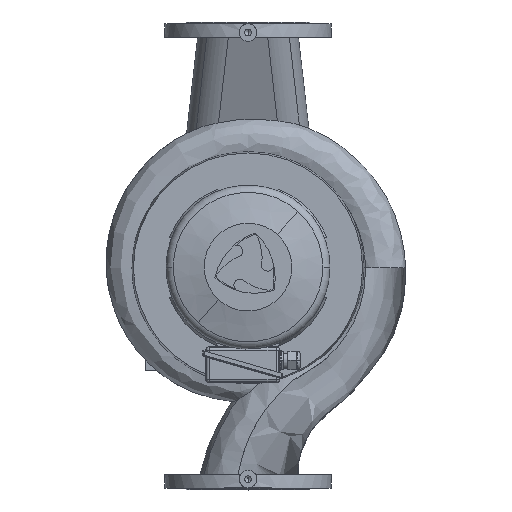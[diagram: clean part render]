
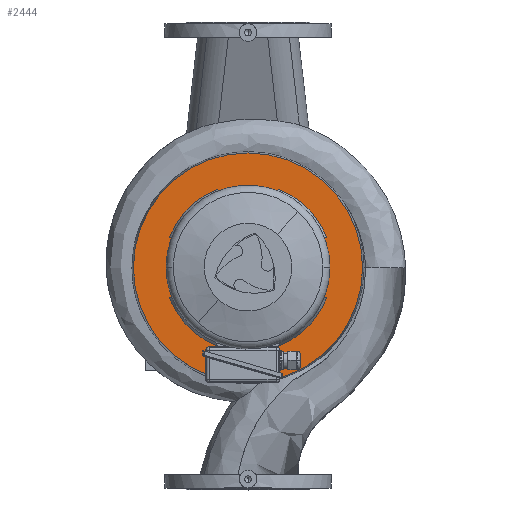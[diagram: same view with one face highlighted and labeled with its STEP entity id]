
A CAD part, top view. The second image highlights one B-rep face of the part: STEP entity #2444.
In plain terms, the highlighted planar face has unit normal (0, 0, 1) as drawn and (1, 0, 0) by its records, which use the part's own axes.
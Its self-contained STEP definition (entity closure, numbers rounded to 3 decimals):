
#2444=ADVANCED_FACE('',(#6164,#6165),#6166,.T.);
#2468=EDGE_CURVE('',#6205,#6206,#6207,.T.);
#2492=EDGE_CURVE('',#6249,#6250,#6251,.T.);
#2500=EDGE_CURVE('',#6259,#6262,#6263,.T.);
#2508=EDGE_CURVE('',#6271,#6274,#6275,.T.);
#2514=EDGE_CURVE('',#6278,#6250,#6283,.T.);
#2516=EDGE_CURVE('',#6285,#6262,#6286,.T.);
#2524=EDGE_CURVE('',#6297,#6293,#6298,.T.);
#2532=EDGE_CURVE('',#6308,#6304,#6309,.T.);
#2540=EDGE_CURVE('',#6315,#6318,#6319,.T.);
#2550=EDGE_CURVE('',#6329,#6259,#6332,.T.);
#2556=EDGE_CURVE('',#6337,#6271,#6340,.T.);
#2564=EDGE_CURVE('',#6348,#6343,#6351,.T.);
#2566=EDGE_CURVE('',#6274,#6293,#6353,.T.);
#2570=EDGE_CURVE('',#6343,#6304,#6357,.T.);
#2574=EDGE_CURVE('',#6318,#6249,#6361,.T.);
#2578=EDGE_CURVE('',#6285,#6337,#6365,.T.);
#2582=EDGE_CURVE('',#6297,#6348,#6369,.T.);
#2584=EDGE_CURVE('',#6278,#6329,#6371,.T.);
#2588=EDGE_CURVE('',#6206,#6205,#6375,.T.);
#2590=EDGE_CURVE('',#6308,#6315,#6377,.T.);
#6164=FACE_OUTER_BOUND('',#12509,.T.);
#6165=FACE_BOUND('',#12510,.T.);
#6166=PLANE('',#12511);
#6205=VERTEX_POINT('',#12552);
#6206=VERTEX_POINT('',#12553);
#6207=CIRCLE('',#12554,196.0);
#6249=VERTEX_POINT('',#12608);
#6250=VERTEX_POINT('',#12609);
#6251=CIRCLE('',#12610,132.799);
#6259=VERTEX_POINT('',#12630);
#6262=VERTEX_POINT('',#12643);
#6263=CIRCLE('',#12644,132.799);
#6271=VERTEX_POINT('',#12664);
#6274=VERTEX_POINT('',#12677);
#6275=CIRCLE('',#12678,132.799);
#6278=VERTEX_POINT('',#12682);
#6283=LINE('',#12699,#12700);
#6285=VERTEX_POINT('',#12703);
#6286=LINE('',#12704,#12705);
#6293=VERTEX_POINT('',#12725);
#6297=VERTEX_POINT('',#12739);
#6298=LINE('',#12740,#12741);
#6304=VERTEX_POINT('',#12760);
#6308=VERTEX_POINT('',#12774);
#6309=LINE('',#12775,#12776);
#6315=VERTEX_POINT('',#12795);
#6318=VERTEX_POINT('',#12808);
#6319=LINE('',#12809,#12810);
#6329=VERTEX_POINT('',#12835);
#6332=LINE('',#12848,#12849);
#6337=VERTEX_POINT('',#12857);
#6340=LINE('',#12870,#12871);
#6343=VERTEX_POINT('',#12875);
#6348=VERTEX_POINT('',#12892);
#6351=LINE('',#12905,#12906);
#6353=CIRCLE('',#12909,132.799);
#6357=CIRCLE('',#12915,132.799);
#6361=CIRCLE('',#12921,132.799);
#6365=CIRCLE('',#12927,144.0);
#6369=CIRCLE('',#12933,144.0);
#6371=CIRCLE('',#12936,144.0);
#6375=CIRCLE('',#12942,196.0);
#6377=CIRCLE('',#12945,144.0);
#12509=EDGE_LOOP('',(#20136,#20137));
#12510=EDGE_LOOP('',(#20138,#20139,#20140,#20141,#20142,#20143,#20144,#20145,#20146,#20147,#20148,#20149,#20150,#20151,#20152,#20153,#20154,#20155));
#12511=AXIS2_PLACEMENT_3D('',#20156,#20157,#20158);
#12552=CARTESIAN_POINT('',(20.0,196.0,0.0));
#12553=CARTESIAN_POINT('',(20.0,-196.0,0.));
#12554=AXIS2_PLACEMENT_3D('',#20258,#20259,#20260);
#12608=CARTESIAN_POINT('',(20.0,-132.799,0.));
#12609=CARTESIAN_POINT('',(20.0,-123.51,-48.794));
#12610=AXIS2_PLACEMENT_3D('',#20294,#20295,#20296);
#12630=CARTESIAN_POINT('',(20.0,-48.794,-123.51));
#12643=CARTESIAN_POINT('',(20.0,48.794,-123.51));
#12644=AXIS2_PLACEMENT_3D('',#20300,#20301,#20302);
#12664=CARTESIAN_POINT('',(20.0,123.51,-48.794));
#12677=CARTESIAN_POINT('',(20.0,132.799,0.));
#12678=AXIS2_PLACEMENT_3D('',#20306,#20307,#20308);
#12682=CARTESIAN_POINT('',(20.0,-134.395,-51.711));
#12699=CARTESIAN_POINT('',(20.0,-134.395,-51.711));
#12700=VECTOR('',#20310,1.0);
#12703=CARTESIAN_POINT('',(20.0,51.711,-134.395));
#12704=CARTESIAN_POINT('',(20.0,51.711,-134.395));
#12705=VECTOR('',#20311,1.0);
#12725=CARTESIAN_POINT('',(20.0,123.51,48.794));
#12739=CARTESIAN_POINT('',(20.0,134.395,51.711));
#12740=CARTESIAN_POINT('',(20.0,134.395,51.711));
#12741=VECTOR('',#20313,1.0);
#12760=CARTESIAN_POINT('',(20.0,-48.794,123.51));
#12774=CARTESIAN_POINT('',(20.0,-51.711,134.395));
#12775=CARTESIAN_POINT('',(20.0,-51.711,134.395));
#12776=VECTOR('',#20315,1.0);
#12795=CARTESIAN_POINT('',(20.0,-134.395,51.711));
#12808=CARTESIAN_POINT('',(20.0,-123.51,48.794));
#12809=CARTESIAN_POINT('',(20.0,-134.395,51.711));
#12810=VECTOR('',#20317,1.0);
#12835=CARTESIAN_POINT('',(20.0,-51.711,-134.395));
#12848=CARTESIAN_POINT('',(20.0,-51.711,-134.395));
#12849=VECTOR('',#20320,1.0);
#12857=CARTESIAN_POINT('',(20.0,134.395,-51.711));
#12870=CARTESIAN_POINT('',(20.0,134.395,-51.711));
#12871=VECTOR('',#20322,1.0);
#12875=CARTESIAN_POINT('',(20.0,48.794,123.51));
#12892=CARTESIAN_POINT('',(20.0,51.711,134.395));
#12905=CARTESIAN_POINT('',(20.0,51.711,134.395));
#12906=VECTOR('',#20324,1.0);
#12909=AXIS2_PLACEMENT_3D('',#20325,#20326,#20327);
#12915=AXIS2_PLACEMENT_3D('',#20331,#20332,#20333);
#12921=AXIS2_PLACEMENT_3D('',#20337,#20338,#20339);
#12927=AXIS2_PLACEMENT_3D('',#20343,#20344,#20345);
#12933=AXIS2_PLACEMENT_3D('',#20349,#20350,#20351);
#12936=AXIS2_PLACEMENT_3D('',#20352,#20353,#20354);
#12942=AXIS2_PLACEMENT_3D('',#20358,#20359,#20360);
#12945=AXIS2_PLACEMENT_3D('',#20361,#20362,#20363);
#20136=ORIENTED_EDGE('',*,*,#2468,.T.);
#20137=ORIENTED_EDGE('',*,*,#2588,.T.);
#20138=ORIENTED_EDGE('',*,*,#2590,.F.);
#20139=ORIENTED_EDGE('',*,*,#2532,.T.);
#20140=ORIENTED_EDGE('',*,*,#2570,.F.);
#20141=ORIENTED_EDGE('',*,*,#2564,.F.);
#20142=ORIENTED_EDGE('',*,*,#2582,.F.);
#20143=ORIENTED_EDGE('',*,*,#2524,.T.);
#20144=ORIENTED_EDGE('',*,*,#2566,.F.);
#20145=ORIENTED_EDGE('',*,*,#2508,.F.);
#20146=ORIENTED_EDGE('',*,*,#2556,.F.);
#20147=ORIENTED_EDGE('',*,*,#2578,.F.);
#20148=ORIENTED_EDGE('',*,*,#2516,.T.);
#20149=ORIENTED_EDGE('',*,*,#2500,.F.);
#20150=ORIENTED_EDGE('',*,*,#2550,.F.);
#20151=ORIENTED_EDGE('',*,*,#2584,.F.);
#20152=ORIENTED_EDGE('',*,*,#2514,.T.);
#20153=ORIENTED_EDGE('',*,*,#2492,.F.);
#20154=ORIENTED_EDGE('',*,*,#2574,.F.);
#20155=ORIENTED_EDGE('',*,*,#2540,.F.);
#20156=CARTESIAN_POINT('',(20.0,170.0,0.0));
#20157=DIRECTION('',(1.0,0.0,0.0));
#20158=DIRECTION('',(0.0,0.0,-1.0));
#20258=CARTESIAN_POINT('',(20.0,0.0,0.0));
#20259=DIRECTION('',(1.0,0.0,0.0));
#20260=DIRECTION('',(0.0,1.0,0.0));
#20294=CARTESIAN_POINT('',(20.0,0.0,0.0));
#20295=DIRECTION('',(1.0,0.0,0.0));
#20296=DIRECTION('',(0.0,1.0,0.0));
#20300=CARTESIAN_POINT('',(20.0,0.0,0.0));
#20301=DIRECTION('',(1.0,0.0,0.0));
#20302=DIRECTION('',(0.0,1.0,0.0));
#20306=CARTESIAN_POINT('',(20.0,0.0,0.0));
#20307=DIRECTION('',(1.0,0.0,0.0));
#20308=DIRECTION('',(0.0,1.0,0.0));
#20310=DIRECTION('',(0.,0.966,0.259));
#20311=DIRECTION('',(0.,-0.259,0.966));
#20313=DIRECTION('',(0.,-0.966,-0.259));
#20315=DIRECTION('',(0.,0.259,-0.966));
#20317=DIRECTION('',(0.,0.966,-0.259));
#20320=DIRECTION('',(0.,0.259,0.966));
#20322=DIRECTION('',(0.,-0.966,0.259));
#20324=DIRECTION('',(0.,-0.259,-0.966));
#20325=CARTESIAN_POINT('',(20.0,0.0,0.0));
#20326=DIRECTION('',(1.0,0.0,0.0));
#20327=DIRECTION('',(0.0,1.0,0.0));
#20331=CARTESIAN_POINT('',(20.0,0.0,0.0));
#20332=DIRECTION('',(1.0,0.0,0.0));
#20333=DIRECTION('',(0.0,1.0,0.0));
#20337=CARTESIAN_POINT('',(20.0,0.0,0.0));
#20338=DIRECTION('',(1.0,0.0,0.0));
#20339=DIRECTION('',(0.0,1.0,0.0));
#20343=CARTESIAN_POINT('',(20.0,0.0,0.0));
#20344=DIRECTION('',(1.0,0.0,0.0));
#20345=DIRECTION('',(0.0,1.0,0.0));
#20349=CARTESIAN_POINT('',(20.0,0.0,0.0));
#20350=DIRECTION('',(1.0,0.0,0.0));
#20351=DIRECTION('',(0.0,1.0,0.0));
#20352=CARTESIAN_POINT('',(20.0,0.0,0.0));
#20353=DIRECTION('',(1.0,0.0,0.0));
#20354=DIRECTION('',(0.0,1.0,0.0));
#20358=CARTESIAN_POINT('',(20.0,0.0,0.0));
#20359=DIRECTION('',(1.0,0.0,0.0));
#20360=DIRECTION('',(0.0,1.0,0.0));
#20361=CARTESIAN_POINT('',(20.0,0.0,0.0));
#20362=DIRECTION('',(1.0,0.0,0.0));
#20363=DIRECTION('',(0.0,1.0,0.0));
